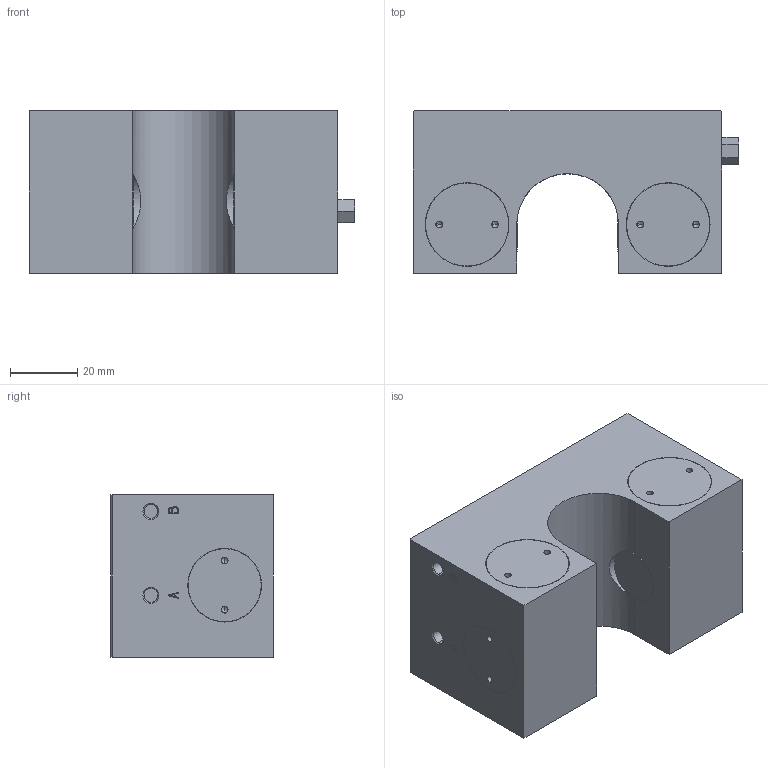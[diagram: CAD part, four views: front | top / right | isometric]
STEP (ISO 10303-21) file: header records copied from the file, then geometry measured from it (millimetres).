
FILE_DESCRIPTION( ( '' ), '1' );
FILE_NAME( 'E:/04 嬴檜蠱滌/0404 ZIMMER/040414 ZIMMER CAD download/MKR/MKR3000A.stp', '2020-04-16T10:10:11', ( '' ), ( '' ), ' ', ' ', ' ' );
FILE_SCHEMA( ( 'automotive_design' ) );
Length unit declared in the file: millimetre
Products named in the file (1): 1
Bounding box: 97 x 48.5 x 48.5 mm (x, y, z)
Volume: 174246.3 mm3; surface area: 27387.1 mm2
Topology: 1 solids, 2 shells, 184 faces, 426 edges, 264 vertices
Faces by surface type: plane 87, cylinder 65, cone 32
Entity records: 10132 total; most frequent: CARTESIAN_POINT 1049, DIRECTION 914, STYLED_ITEM 859, PRESENTATION_STYLE_ASSIGNMENT 859, COLOUR_RGB 859, ORIENTED_EDGE 820, EDGE_CURVE 410, CURVE_STYLE 410
